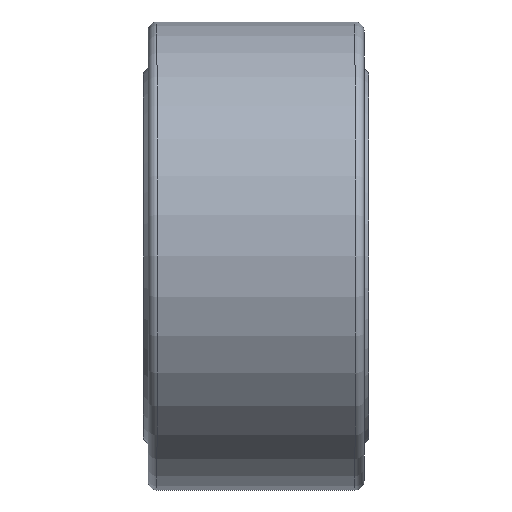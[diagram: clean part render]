
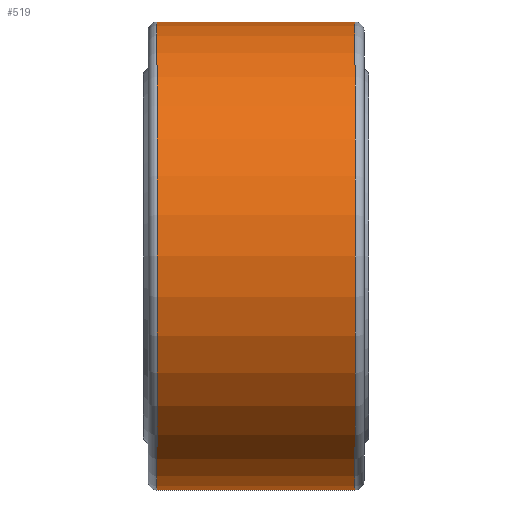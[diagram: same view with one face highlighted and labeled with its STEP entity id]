
A CAD part, front view. The second image highlights one B-rep face of the part: STEP entity #519.
In plain terms, the highlighted cylindrical face has radius 26 mm (diameter 52 mm), a full revolution.
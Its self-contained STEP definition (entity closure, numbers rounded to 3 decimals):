
#157=CYLINDRICAL_SURFACE('',#567,26.);
#173=FACE_BOUND('',#251,.T.);
#210=FACE_OUTER_BOUND('',#250,.T.);
#250=EDGE_LOOP('',(#440));
#251=EDGE_LOOP('',(#441));
#325=CIRCLE('',#566,26.);
#326=CIRCLE('',#568,26.);
#363=VERTEX_POINT('',#894);
#364=VERTEX_POINT('',#897);
#401=EDGE_CURVE('',#363,#363,#325,.T.);
#402=EDGE_CURVE('',#364,#364,#326,.T.);
#440=ORIENTED_EDGE('',*,*,#402,.F.);
#441=ORIENTED_EDGE('',*,*,#401,.F.);
#519=ADVANCED_FACE('',(#210,#173),#157,.T.);
#566=AXIS2_PLACEMENT_3D('',#895,#678,#679);
#567=AXIS2_PLACEMENT_3D('',#896,#680,#681);
#568=AXIS2_PLACEMENT_3D('',#898,#682,#683);
#678=DIRECTION('center_axis',(-1.,0.,0.));
#679=DIRECTION('ref_axis',(0.,-1.,0.));
#680=DIRECTION('center_axis',(1.,0.,0.));
#681=DIRECTION('ref_axis',(0.,1.,0.));
#682=DIRECTION('center_axis',(1.,0.,0.));
#683=DIRECTION('ref_axis',(0.,-1.,0.));
#894=CARTESIAN_POINT('',(-11.,26.,0.));
#895=CARTESIAN_POINT('Origin',(-11.,0.,0.));
#896=CARTESIAN_POINT('Origin',(0.,0.,
0.));
#897=CARTESIAN_POINT('',(11.,26.,0.));
#898=CARTESIAN_POINT('Origin',(11.,0.,0.));
